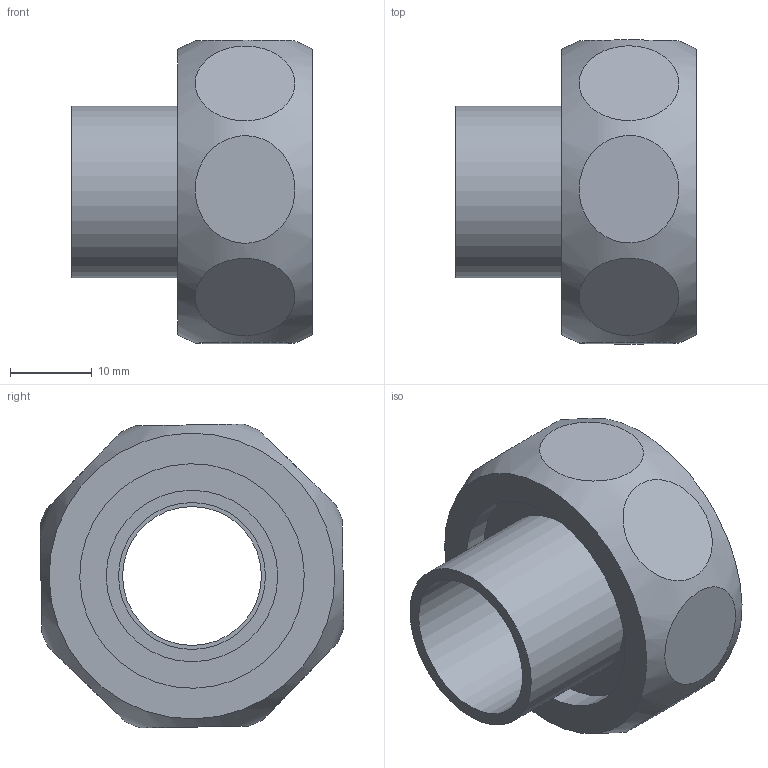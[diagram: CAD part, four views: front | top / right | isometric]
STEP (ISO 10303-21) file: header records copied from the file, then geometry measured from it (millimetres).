
FILE_DESCRIPTION(/* description */ (''),/* implementation_level */ '2;1');
FILE_NAME(/* name */ '\\lg50011\SANHA_LEGNICA\Engineering\Public\RYSUNKI\SANHA POLSKA\4359g\inventor\14359g_18-1(1).stp',/* time_stamp */ '2022-03-23T07:11:26+01:00',/* author */ ('gomulka'),/* organization */ (''),/* preprocessor_version */ 'ST-DEVELOPER v18.1',/* originating_system */ 'Autodesk Inventor 2021',/* authorisation */ '');
FILE_SCHEMA (('AUTOMOTIVE_DESIGN { 1 0 10303 214 3 1 1 }'));
Length unit declared in the file: millimetre
Products named in the file (4): 14359g_18-1(1); R14374_1(1); R14372_18-1(1); 1DCU1
Assembly tree (3 placements, depth 2):
  14359g_18-1(1)
    R14374_1(1)
    R14372_18-1(1)
    1DCU1
Bounding box: 29.5 x 37.22 x 37.22 mm (x, y, z)
Volume: 10479.4 mm3; surface area: 8705.6 mm2
Topology: 3 solids, 3 shells, 27 faces, 53 edges, 42 vertices
Faces by surface type: plane 17, cylinder 8, cone 1, bspline 1
Full cylindrical faces by diameter (mm): 17 x1, 18 x1, 21 x2, 27.5 x1, 29.5 x1, 30 x1, 30.291 x1
Entity records: 1372 total; most frequent: CARTESIAN_POINT 616, DIRECTION 141, ORIENTED_EDGE 106, AXIS2_PLACEMENT_3D 66, EDGE_CURVE 53, EDGE_LOOP 43, VERTEX_POINT 42, CIRCLE 33
